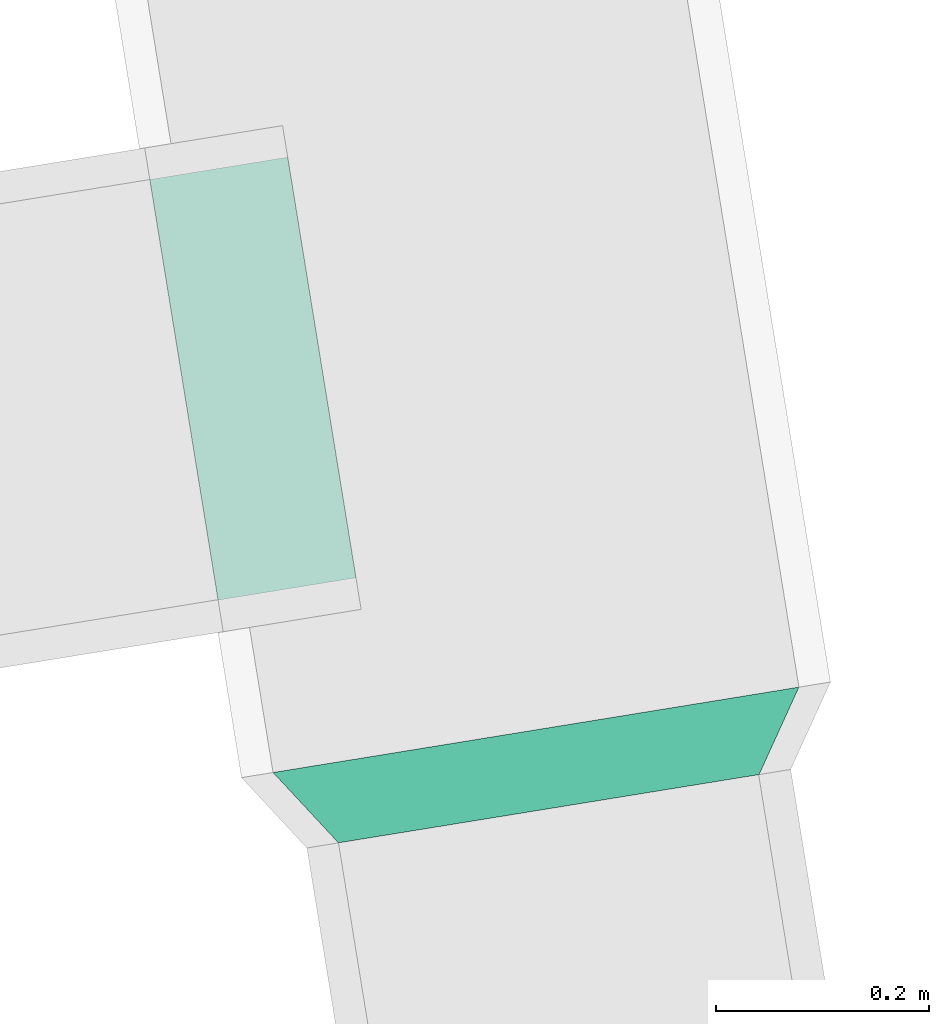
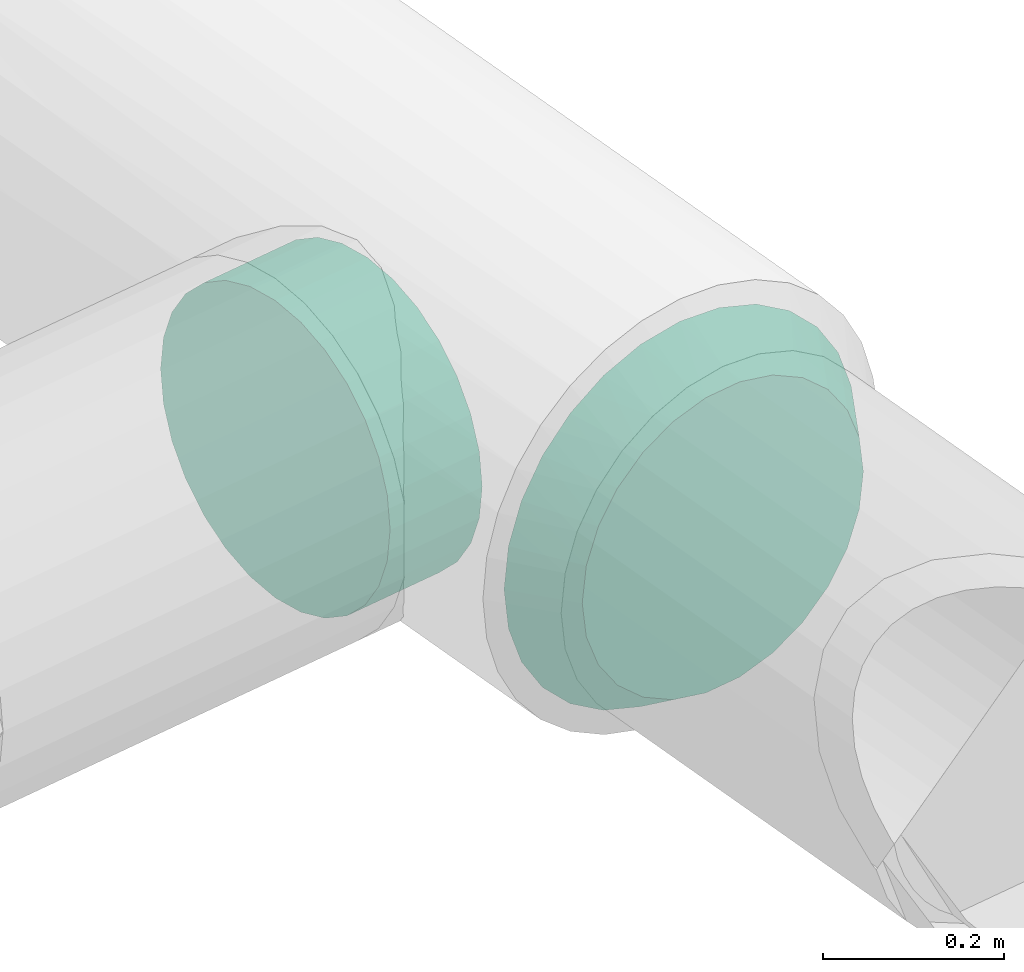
# One storey, part 34 of 39: 2 flow fittings.
"""IFC2X3 building model written with IfcOpenShell, lengths in millimetres."""

from ifc_helpers import new_model, entity, si_unit, converted_unit, derived_unit, direction, frame, origin, origin_with_axes, place, context, subcontext, project, spatial, faceted_brep, source, transform, mapped, material, type_object, element, save


model = new_model("IFC2X3")

# Units and contexts
model_context = context("Model", 3, precision=0.01, world=origin(), true_north=direction((6.12323399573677e-17, 1.0)))
plan_context = context("Plan", 3, precision=1e-05, world=origin_with_axes())
body_context = subcontext(model_context, "Body", "Model", "MODEL_VIEW")
ifc_project = project(units=[converted_unit("PLANEANGLEUNIT", "DEGREE", entity("IfcPositiveLengthMeasure", 0.0174532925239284), si_unit("PLANEANGLEUNIT", "RADIAN"), dimensions=[0, 0, 0, 0, 0, 0, 0]), si_unit("AREAUNIT", "SQUARE_METRE"), si_unit("LENGTHUNIT", "METRE", prefix="MILLI"), si_unit("MASSUNIT", "GRAM", prefix="KILO"), si_unit("POWERUNIT", "WATT"), si_unit("PRESSUREUNIT", "PASCAL", prefix="KILO"), si_unit("FORCEUNIT", "NEWTON", prefix="KILO"), si_unit("ELECTRICVOLTAGEUNIT", "VOLT"), si_unit("ELECTRICCURRENTUNIT", "AMPERE"), si_unit("THERMODYNAMICTEMPERATUREUNIT", "DEGREE_CELSIUS"), si_unit("TIMEUNIT", "SECOND"), si_unit("VOLUMEUNIT", "CUBIC_METRE"), derived_unit("LINEARVELOCITYUNIT", [(si_unit("LENGTHUNIT", "METRE"), 1), (si_unit("TIMEUNIT", "SECOND"), -1)]), derived_unit("VOLUMETRICFLOWRATEUNIT", [(si_unit("VOLUMEUNIT", "CUBIC_METRE"), 1), (si_unit("TIMEUNIT", "SECOND"), -1)]), derived_unit("THERMALTRANSMITTANCEUNIT", [(si_unit("POWERUNIT", "WATT"), 1), (si_unit("THERMODYNAMICTEMPERATUREUNIT", "KELVIN"), -1), (si_unit("AREAUNIT", "SQUARE_METRE"), -1)]), derived_unit("SOUNDPRESSUREUNIT", [(si_unit("PRESSUREUNIT", "PASCAL"), 1)])], contexts=[model_context, plan_context])

# Site, building, storey
site_placement = place(None, frame((-0.00071070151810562, 0.00438415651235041, 0.0), z_axis=(0.0, 0.0, 1.0), x_axis=(-0.160236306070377, 0.987078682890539, 0.0)))
site = spatial("IfcSite", under=ifc_project, at=site_placement, Name="Default", CompositionType="ELEMENT")
building_placement = place(site_placement, origin_with_axes())
building = spatial("IfcBuilding", under=site, at=building_placement, CompositionType="ELEMENT")
storey_placement = place(building_placement, frame((0.0, 0.0, 50999.9999999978), z_axis=(0.0, 0.0, 1.0), x_axis=(1.0, 0.0, 0.0)))
storey = spatial("IfcBuildingStorey", under=building, at=storey_placement, Name="Nivå D", CompositionType="ELEMENT", Elevation=50999.9999999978)

# Flow fittings
ifc_material_1 = material(Name="Material_Duct")
duct_fitting_type_1 = type_object("IfcDuctFittingType", Name="magicirc_reduction_001:magicirc_reduction_001", PredefinedType="NOTDEFINED", material=ifc_material_1)
shared_shape_1 = source(origin(), body_context, "Body", "Brep", [
    faceted_brep([(75.0, -155.872450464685, 195.457870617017), (75.0, -195.457870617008, 155.872450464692), (75.0, -225.242216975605, 108.470934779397), (75.0, -243.731978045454, 55.630233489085), (75.0, -250.0, 0.0), (75.0, -243.731978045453, -55.6302334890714), (75.0, -225.242216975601, -108.470934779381), (75.0, -195.457870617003, -155.872450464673), (75.0, -155.872450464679, -195.457870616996), (75.0, -108.470934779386, -225.242216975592), (75.0, -55.630233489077, -243.731978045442), (75.0, 0.0, -250.0), (75.0, 55.6302334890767, -243.731978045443), (75.0, 108.470934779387, -225.242216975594), (75.0, 155.87245046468, -195.457870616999), (75.0, 195.457870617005, -155.872450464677), (75.0, 225.242216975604, -108.470934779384), (75.0, 243.731978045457, -55.6302334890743), (75.0, 250.0, 0.0), (75.0, 243.731978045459, 55.6302334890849), (75.0, 225.242216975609, 108.470934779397), (75.0, 195.457870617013, 155.872450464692), (75.0, 155.872450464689, 195.457870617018), (75.0, 108.470934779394, 225.242216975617), (75.0, 55.6302334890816, 243.731978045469), (75.0, 0.0, 250.0), (75.0, -55.6302334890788, 243.731978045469), (75.0, -108.470934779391, 225.242216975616), (0.0, -70.9209774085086, 187.003248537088), (0.0, -24.107336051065, 198.541774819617), (0.0, 24.1073360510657, 198.541774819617), (0.0, 70.9209774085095, 187.003248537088), (0.0, 113.612949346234, 164.596773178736), (0.0, 149.702149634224, 132.624531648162), (0.0, 177.091205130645, 92.9446344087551), (0.0, 194.188363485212, 47.8631328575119), (0.0, 200.0, 0.0), (0.0, 194.188363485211, -47.8631328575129), (0.0, 177.09120513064, -92.9446344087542), (0.0, 149.702149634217, -132.624531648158), (0.0, 113.612949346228, -164.596773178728), (0.0, 70.9209774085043, -187.003248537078), (0.0, 24.1073360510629, -198.541774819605), (0.0, -24.1073360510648, -198.541774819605), (0.0, -70.9209774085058, -187.003248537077), (0.0, -113.612949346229, -164.596773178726), (0.0, -149.702149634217, -132.624531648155), (0.0, -177.091205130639, -92.9446344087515), (0.0, -194.188363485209, -47.8631328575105), (0.0, -200.0, 0.0), (0.0, -194.18836348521, 47.863132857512), (0.0, -177.091205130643, 92.9446344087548), (0.0, -149.702149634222, 132.624531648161), (0.0, -113.612949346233, 164.596773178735)], [[[0, 1, 2, 3, 4, 5, 6, 7, 8, 9, 10, 11, 12, 13, 14, 15, 16, 17, 18, 19, 20, 21, 22, 23, 24, 25, 26, 27]], [[28, 29, 30, 31, 32, 33, 34, 35, 36, 37, 38, 39, 40, 41, 42, 43, 44, 45, 46, 47, 48, 49, 50, 51, 52, 53]], [[48, 47, 6]], [[49, 48, 5]], [[44, 43, 10]], [[46, 45, 8]], [[44, 9, 45]], [[47, 46, 7]], [[48, 6, 5]], [[5, 4, 49]], [[9, 8, 45]], [[7, 46, 8]], [[7, 6, 47]], [[10, 9, 44]], [[43, 11, 10]], [[41, 40, 13]], [[42, 41, 12]], [[39, 38, 15]], [[37, 36, 17]], [[38, 37, 16]], [[40, 39, 14]], [[11, 42, 12]], [[14, 13, 40]], [[12, 41, 13]], [[15, 14, 39]], [[38, 16, 15]], [[17, 16, 37]], [[18, 17, 36]], [[42, 11, 43]], [[35, 34, 20]], [[36, 35, 19]], [[31, 30, 24]], [[33, 32, 22]], [[31, 23, 32]], [[34, 33, 21]], [[35, 20, 19]], [[19, 18, 36]], [[23, 22, 32]], [[21, 33, 22]], [[21, 20, 34]], [[24, 23, 31]], [[30, 25, 24]], [[28, 53, 27]], [[29, 28, 26]], [[52, 51, 1]], [[50, 49, 3]], [[51, 50, 2]], [[53, 52, 0]], [[25, 29, 26]], [[0, 27, 53]], [[26, 28, 27]], [[1, 0, 52]], [[51, 2, 1]], [[3, 2, 50]], [[4, 3, 49]], [[29, 25, 30]]]),
])
flow_fitting_1_placement = place(storey_placement, frame((772411.932124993, -601972.905078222, 3300.0), z_axis=(0.0, 0.0, 1.0), x_axis=(1.0, 0.0, 0.0)))
element("IfcFlowFitting", 1, at=flow_fitting_1_placement, inside=storey, type_object=duct_fitting_type_1, material=ifc_material_1, Name="magicirc_reduction_001:magicirc_reduction_001", ObjectType="magicirc_reduction_001:magicirc_reduction_001", context=body_context, shape_type="MappedRepresentation", body=[
    mapped(shared_shape_1, transform((0.0, 0.0, 0.0), scale=1.0)),
])
ifc_material_2 = material(Name="<Unnamed>")
duct_fitting_type_2 = type_object("IfcDuctFittingType", Name="magicirc_tapoutlet_1:magicirc_tapoutlet_001", PredefinedType="NOTDEFINED", material=ifc_material_2)
shared_shape_2 = source(origin(), body_context, "Body", "Brep", [
    faceted_brep([(-106.095999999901, 0.0, -200.0), (-106.095999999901, -44.504186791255, -194.985582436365), (-106.095999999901, -86.7767478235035, -180.193773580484), (-106.095999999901, -124.697960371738, -156.366296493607), (-106.095999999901, -156.366296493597, -124.697960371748), (-106.095999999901, -180.193773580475, -86.7767478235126), (-106.095999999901, -194.985582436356, -44.5041867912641), (-106.095999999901, -200.0, 0.0), (-106.095999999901, -194.985582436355, 44.5041867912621), (-106.095999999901, -180.193773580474, 86.7767478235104), (-106.095999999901, -156.366296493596, 124.697960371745), (-106.095999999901, -124.697960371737, 156.366296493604), (-106.095999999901, -86.7767478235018, 180.193773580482), (-106.095999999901, -44.5041867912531, 194.985582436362), (-106.095999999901, 0.0, 200.0), (-106.095999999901, 44.5041867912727, 194.985582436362), (-106.095999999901, 86.7767478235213, 180.193773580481), (-106.095999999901, 124.697960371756, 156.366296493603), (-106.095999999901, 156.366296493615, 124.697960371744), (-106.095999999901, 180.193773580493, 86.7767478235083), (-106.095999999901, 194.985582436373, 44.5041867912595), (-106.095999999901, 200.0, 0.0), (-106.095999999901, 194.985582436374, -44.5041867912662), (-106.095999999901, 180.193773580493, -86.7767478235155), (-106.095999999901, 156.366296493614, -124.697960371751), (-106.095999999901, 124.697960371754, -156.36629649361), (-106.095999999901, 86.776747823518, -180.193773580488), (-106.095999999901, 44.5041867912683, -194.985582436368), (0.0, -44.5041867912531, 194.985582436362), (25.0, -44.5041867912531, 194.985582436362), (25.0, 0.0, 200.0), (0.0, 0.0, 200.0), (0.0, -86.7767478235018, 180.193773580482), (25.0, -86.7767478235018, 180.193773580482), (0.0, -124.697960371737, 156.366296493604), (25.0, -124.697960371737, 156.366296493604), (0.0, -156.366296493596, 124.697960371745), (25.0, -156.366296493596, 124.697960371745), (0.0, -180.193773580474, 86.7767478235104), (25.0, -180.193773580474, 86.7767478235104), (0.0, -194.985582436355, 44.5041867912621), (25.0, -194.985582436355, 44.5041867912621), (0.0, -200.0, 0.0), (25.0, -200.0, 0.0), (0.0, -194.985582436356, -44.5041867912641), (25.0, -194.985582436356, -44.5041867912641), (0.0, -180.193773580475, -86.7767478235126), (25.0, -180.193773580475, -86.7767478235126), (0.0, -156.366296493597, -124.697960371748), (25.0, -156.366296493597, -124.697960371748), (0.0, -124.697960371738, -156.366296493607), (25.0, -124.697960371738, -156.366296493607), (0.0, -86.7767478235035, -180.193773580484), (25.0, -86.7767478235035, -180.193773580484), (0.0, -44.504186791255, -194.985582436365), (25.0, -44.504186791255, -194.985582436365), (0.0, 0.0, -200.0), (25.0, 0.0, -200.0), (0.0, 44.5041867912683, -194.985582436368), (25.0, 44.5041867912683, -194.985582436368), (0.0, 124.697960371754, -156.36629649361), (25.0, 124.697960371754, -156.36629649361), (25.0, 86.776747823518, -180.193773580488), (0.0, 86.776747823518, -180.193773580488), (0.0, 156.366296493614, -124.697960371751), (25.0, 156.366296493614, -124.697960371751), (0.0, 180.193773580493, -86.7767478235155), (25.0, 180.193773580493, -86.7767478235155), (0.0, 194.985582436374, -44.5041867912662), (25.0, 194.985582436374, -44.5041867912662), (0.0, 200.0, 0.0), (25.0, 200.0, 0.0), (0.0, 194.985582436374, 44.5041867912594), (25.0, 194.985582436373, 44.5041867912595), (0.0, 180.193773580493, 86.7767478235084), (25.0, 180.193773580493, 86.7767478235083), (0.0, 156.366296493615, 124.697960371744), (25.0, 156.366296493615, 124.697960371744), (0.0, 124.697960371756, 156.366296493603), (25.0, 124.697960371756, 156.366296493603), (0.0, 86.7767478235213, 180.193773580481), (25.0, 86.7767478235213, 180.193773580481), (0.0, 44.5041867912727, 194.985582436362), (25.0, 44.5041867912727, 194.985582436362)], [[[0, 1, 2, 3, 4, 5, 6, 7, 8, 9, 10, 11, 12, 13, 14, 15, 16, 17, 18, 19, 20, 21, 22, 23, 24, 25, 26, 27]], [[28, 29, 30, 31, 14, 13]], [[32, 33, 29, 28, 13, 12]], [[34, 35, 33, 32, 12, 11]], [[11, 10, 36, 37, 35, 34]], [[38, 39, 37, 36, 10, 9]], [[40, 41, 39, 38, 9, 8]], [[42, 43, 41, 40, 8, 7]], [[44, 45, 43, 42, 7, 6]], [[46, 47, 45, 44, 6, 5]], [[48, 49, 47, 46, 5, 4]], [[4, 3, 50, 51, 49, 48]], [[52, 53, 51, 50, 3, 2]], [[54, 55, 53, 52, 2, 1]], [[56, 57, 55, 54, 1, 0]], [[0, 27, 58, 59, 57, 56]], [[25, 60, 61, 62, 63, 26]], [[26, 63, 62, 59, 58, 27]], [[25, 24, 64, 65, 61, 60]], [[66, 67, 65, 64, 24, 23]], [[68, 69, 67, 66, 23, 22]], [[70, 71, 69, 68, 22, 21]], [[21, 20, 72, 73, 71, 70]], [[19, 74, 75, 73, 72, 20]], [[76, 77, 75, 74, 19, 18]], [[18, 17, 78, 79, 77, 76]], [[80, 81, 79, 78, 17, 16]], [[82, 83, 81, 80, 16, 15]], [[31, 30, 83, 82, 15, 14]], [[57, 59, 62, 61, 65, 67, 69, 71, 73, 75, 77, 79, 81, 83, 30, 29, 33, 35, 37, 39, 41, 43, 45, 47, 49, 51, 53, 55]]]),
    faceted_brep([(25.0, 0.0, -200.0), (25.0, 44.5041867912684, -194.985582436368), (25.0, 86.7767478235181, -180.193773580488), (25.0, 124.697960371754, -156.36629649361), (25.0, 156.366296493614, -124.697960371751), (25.0, 180.193773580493, -86.7767478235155), (25.0, 194.985582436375, -44.5041867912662), (25.0, 200.0, 0.0), (25.0, 194.985582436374, 44.5041867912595), (25.0, 180.193773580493, 86.7767478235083), (25.0, 156.366296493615, 124.697960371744), (25.0, 124.697960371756, 156.366296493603), (25.0, 86.7767478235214, 180.193773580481), (25.0, 44.5041867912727, 194.985582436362), (25.0, 0.0, 200.0), (25.0, -44.504186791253, 194.985582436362), (25.0, -86.7767478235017, 180.193773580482), (25.0, -124.697960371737, 156.366296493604), (25.0, -156.366296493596, 124.697960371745), (25.0, -180.193773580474, 86.7767478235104), (25.0, -194.985582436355, 44.5041867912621), (25.0, -200.0, 0.0), (25.0, -194.985582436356, -44.5041867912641), (25.0, -180.193773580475, -86.7767478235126), (25.0, -156.366296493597, -124.697960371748), (25.0, -124.697960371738, -156.366296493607), (25.0, -86.7767478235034, -180.193773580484), (25.0, -44.5041867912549, -194.985582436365), (0.0, 0.0, 200.0), (-106.095999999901, 0.0, 200.0), (-106.0959999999, -44.5041867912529, 194.985582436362), (0.0, -44.5041867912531, 194.985582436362), (-106.0959999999, -86.7767478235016, 180.193773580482), (0.0, -86.7767478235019, 180.193773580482), (-106.0959999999, -124.697960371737, 156.366296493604), (0.0, -124.697960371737, 156.366296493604), (-106.0959999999, -156.366296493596, 124.697960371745), (0.0, -156.366296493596, 124.697960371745), (-106.0959999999, -180.193773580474, 86.7767478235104), (0.0, -180.193773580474, 86.7767478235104), (-106.0959999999, -194.985582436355, 44.5041867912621), (0.0, -194.985582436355, 44.5041867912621), (-106.0959999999, -200.0, 0.0), (0.0, -200.0, 0.0), (-106.0959999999, -194.985582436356, -44.5041867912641), (0.0, -194.985582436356, -44.5041867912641), (-106.0959999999, -180.193773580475, -86.7767478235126), (0.0, -180.193773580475, -86.7767478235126), (-106.0959999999, -156.366296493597, -124.697960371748), (0.0, -156.366296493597, -124.697960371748), (-106.0959999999, -124.697960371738, -156.366296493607), (0.0, -124.697960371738, -156.366296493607), (-106.0959999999, -86.7767478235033, -180.193773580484), (0.0, -86.7767478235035, -180.193773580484), (0.0, -44.5041867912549, -194.985582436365), (-106.0959999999, -44.5041867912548, -194.985582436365), (-106.095999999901, 0.0, -200.0), (0.0, 0.0, -200.0), (-106.095999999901, 44.5041867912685, -194.985582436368), (0.0, 44.5041867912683, -194.985582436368), (-106.095999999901, 86.7767478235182, -180.193773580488), (0.0, 86.776747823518, -180.193773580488), (-106.095999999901, 124.697960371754, -156.36629649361), (0.0, 124.697960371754, -156.36629649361), (-106.095999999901, 156.366296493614, -124.697960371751), (0.0, 156.366296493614, -124.697960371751), (-106.095999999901, 180.193773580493, -86.7767478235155), (0.0, 180.193773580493, -86.7767478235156), (0.0, 194.985582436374, -44.5041867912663), (-106.095999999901, 194.985582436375, -44.5041867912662), (-106.095999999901, 200.0, 0.0), (0.0, 200.0, 0.0), (-106.095999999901, 194.985582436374, 44.5041867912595), (0.0, 194.985582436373, 44.5041867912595), (-106.095999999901, 180.193773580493, 86.7767478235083), (0.0, 180.193773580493, 86.7767478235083), (-106.095999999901, 156.366296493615, 124.697960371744), (0.0, 156.366296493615, 124.697960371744), (-106.095999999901, 124.697960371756, 156.366296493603), (0.0, 124.697960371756, 156.366296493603), (-106.095999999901, 86.7767478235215, 180.193773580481), (0.0, 86.7767478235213, 180.193773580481), (-106.095999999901, 44.5041867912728, 194.985582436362), (0.0, 44.5041867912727, 194.985582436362)], [[[0, 1, 2, 3, 4, 5, 6, 7, 8, 9, 10, 11, 12, 13, 14, 15, 16, 17, 18, 19, 20, 21, 22, 23, 24, 25, 26, 27]], [[15, 14, 28, 29, 30, 31]], [[31, 30, 32, 33, 16, 15]], [[16, 33, 32, 34, 35, 17]], [[35, 34, 36, 37, 18, 17]], [[19, 18, 37, 36, 38, 39]], [[39, 38, 40, 41, 20, 19]], [[20, 41, 40, 42, 43, 21]], [[22, 21, 43, 42, 44, 45]], [[45, 44, 46, 47, 23, 22]], [[23, 47, 46, 48, 49, 24]], [[49, 48, 50, 51, 25, 24]], [[51, 50, 52, 53, 26, 25]], [[54, 27, 26, 53, 52, 55]], [[0, 27, 54, 55, 56, 57]], [[1, 0, 57, 56, 58, 59]], [[59, 58, 60, 61, 2, 1]], [[2, 61, 60, 62, 63, 3]], [[63, 62, 64, 65, 4, 3]], [[65, 64, 66, 67, 5, 4]], [[68, 69, 70, 71, 7, 6]], [[68, 6, 5, 67, 66, 69]], [[8, 7, 71, 70, 72, 73]], [[73, 72, 74, 75, 9, 8]], [[9, 75, 74, 76, 77, 10]], [[77, 76, 78, 79, 11, 10]], [[12, 11, 79, 78, 80, 81]], [[81, 80, 82, 83, 13, 12]], [[13, 83, 82, 29, 28, 14]], [[56, 55, 52, 50, 48, 46, 44, 42, 40, 38, 36, 34, 32, 30, 29, 82, 80, 78, 76, 74, 72, 70, 69, 66, 64, 62, 60, 58]]]),
    faceted_brep([(-106.095999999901, 0.0, -200.0), (-106.095999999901, -44.504186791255, -194.985582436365), (-106.095999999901, -86.7767478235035, -180.193773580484), (-106.095999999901, -124.697960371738, -156.366296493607), (-106.095999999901, -156.366296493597, -124.697960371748), (-106.095999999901, -180.193773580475, -86.7767478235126), (-106.095999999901, -194.985582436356, -44.5041867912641), (-106.095999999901, -200.0, 0.0), (-106.095999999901, -194.985582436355, 44.5041867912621), (-106.095999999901, -180.193773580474, 86.7767478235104), (-106.095999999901, -156.366296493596, 124.697960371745), (-106.095999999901, -124.697960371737, 156.366296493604), (-106.095999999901, -86.7767478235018, 180.193773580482), (-106.095999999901, -44.5041867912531, 194.985582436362), (-106.095999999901, 0.0, 200.0), (-106.095999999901, 44.5041867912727, 194.985582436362), (-106.095999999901, 86.7767478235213, 180.193773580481), (-106.095999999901, 124.697960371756, 156.366296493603), (-106.095999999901, 156.366296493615, 124.697960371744), (-106.095999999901, 180.193773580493, 86.7767478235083), (-106.095999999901, 194.985582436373, 44.5041867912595), (-106.095999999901, 200.0, 0.0), (-106.095999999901, 194.985582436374, -44.5041867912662), (-106.095999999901, 180.193773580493, -86.7767478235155), (-106.095999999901, 156.366296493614, -124.697960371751), (-106.095999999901, 124.697960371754, -156.36629649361), (-106.095999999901, 86.776747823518, -180.193773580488), (-106.095999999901, 44.5041867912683, -194.985582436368), (0.0, -44.5041867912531, 194.985582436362), (25.0, -44.5041867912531, 194.985582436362), (25.0, 0.0, 200.0), (0.0, 0.0, 200.0), (0.0, -86.7767478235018, 180.193773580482), (25.0, -86.7767478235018, 180.193773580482), (0.0, -124.697960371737, 156.366296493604), (25.0, -124.697960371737, 156.366296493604), (0.0, -156.366296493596, 124.697960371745), (25.0, -156.366296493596, 124.697960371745), (0.0, -180.193773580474, 86.7767478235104), (25.0, -180.193773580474, 86.7767478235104), (0.0, -194.985582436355, 44.5041867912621), (25.0, -194.985582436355, 44.5041867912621), (0.0, -200.0, 0.0), (25.0, -200.0, 0.0), (0.0, -194.985582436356, -44.5041867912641), (25.0, -194.985582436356, -44.5041867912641), (0.0, -180.193773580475, -86.7767478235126), (25.0, -180.193773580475, -86.7767478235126), (0.0, -156.366296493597, -124.697960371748), (25.0, -156.366296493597, -124.697960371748), (0.0, -124.697960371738, -156.366296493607), (25.0, -124.697960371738, -156.366296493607), (0.0, -86.7767478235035, -180.193773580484), (25.0, -86.7767478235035, -180.193773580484), (0.0, -44.504186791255, -194.985582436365), (25.0, -44.504186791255, -194.985582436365), (0.0, 0.0, -200.0), (25.0, 0.0, -200.0), (0.0, 44.5041867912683, -194.985582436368), (25.0, 44.5041867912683, -194.985582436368), (0.0, 124.697960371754, -156.36629649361), (25.0, 124.697960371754, -156.36629649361), (25.0, 86.776747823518, -180.193773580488), (0.0, 86.776747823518, -180.193773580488), (0.0, 156.366296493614, -124.697960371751), (25.0, 156.366296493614, -124.697960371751), (0.0, 180.193773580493, -86.7767478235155), (25.0, 180.193773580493, -86.7767478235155), (0.0, 194.985582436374, -44.5041867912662), (25.0, 194.985582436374, -44.5041867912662), (0.0, 200.0, 0.0), (25.0, 200.0, 0.0), (0.0, 194.985582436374, 44.5041867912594), (25.0, 194.985582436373, 44.5041867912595), (0.0, 180.193773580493, 86.7767478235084), (25.0, 180.193773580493, 86.7767478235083), (0.0, 156.366296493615, 124.697960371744), (25.0, 156.366296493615, 124.697960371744), (0.0, 124.697960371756, 156.366296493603), (25.0, 124.697960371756, 156.366296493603), (0.0, 86.7767478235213, 180.193773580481), (25.0, 86.7767478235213, 180.193773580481), (0.0, 44.5041867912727, 194.985582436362), (25.0, 44.5041867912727, 194.985582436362)], [[[0, 1, 2, 3, 4, 5, 6, 7, 8, 9, 10, 11, 12, 13, 14, 15, 16, 17, 18, 19, 20, 21, 22, 23, 24, 25, 26, 27]], [[28, 29, 30, 31, 14, 13]], [[32, 33, 29, 28, 13, 12]], [[34, 35, 33, 32, 12, 11]], [[11, 10, 36, 37, 35, 34]], [[38, 39, 37, 36, 10, 9]], [[40, 41, 39, 38, 9, 8]], [[42, 43, 41, 40, 8, 7]], [[44, 45, 43, 42, 7, 6]], [[46, 47, 45, 44, 6, 5]], [[48, 49, 47, 46, 5, 4]], [[4, 3, 50, 51, 49, 48]], [[52, 53, 51, 50, 3, 2]], [[54, 55, 53, 52, 2, 1]], [[56, 57, 55, 54, 1, 0]], [[0, 27, 58, 59, 57, 56]], [[25, 60, 61, 62, 63, 26]], [[26, 63, 62, 59, 58, 27]], [[25, 24, 64, 65, 61, 60]], [[66, 67, 65, 64, 24, 23]], [[68, 69, 67, 66, 23, 22]], [[70, 71, 69, 68, 22, 21]], [[21, 20, 72, 73, 71, 70]], [[19, 74, 75, 73, 72, 20]], [[76, 77, 75, 74, 19, 18]], [[18, 17, 78, 79, 77, 76]], [[80, 81, 79, 78, 17, 16]], [[82, 83, 81, 80, 16, 15]], [[31, 30, 83, 82, 15, 14]], [[57, 59, 62, 61, 65, 67, 69, 71, 73, 75, 77, 79, 81, 83, 30, 29, 33, 35, 37, 39, 41, 43, 45, 47, 49, 51, 53, 55]]]),
])
flow_fitting_2_placement = place(storey_placement, frame((772854.832653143, -601722.905078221, 3300.0), z_axis=(0.0, 0.0, -1.0), x_axis=(0.0, 1.0, 0.0)))
element("IfcFlowFitting", 2, at=flow_fitting_2_placement, inside=storey, type_object=duct_fitting_type_2, material=ifc_material_2, Name="magicirc_tapoutlet_1:magicirc_tapoutlet_001", ObjectType="magicirc_tapoutlet_1:magicirc_tapoutlet_001", context=body_context, shape_type="MappedRepresentation", body=[
    mapped(shared_shape_2, transform((0.0, 0.0, 0.0), scale=1.0)),
])

save(model, "model.ifc")
